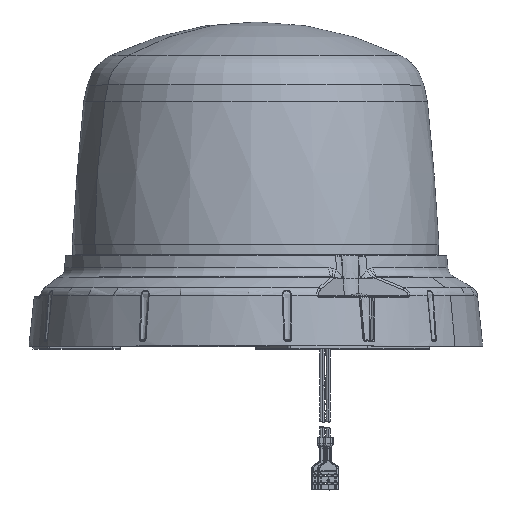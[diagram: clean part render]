
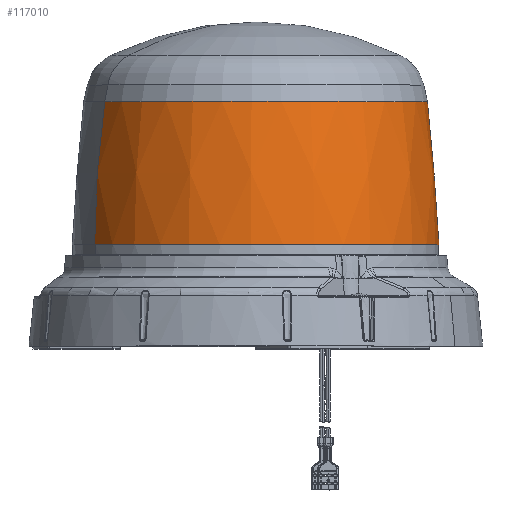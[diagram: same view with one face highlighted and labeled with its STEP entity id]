
A CAD part, top view. The second image highlights one B-rep face of the part: STEP entity #117010.
In plain terms, the highlighted face is a revolution surface.
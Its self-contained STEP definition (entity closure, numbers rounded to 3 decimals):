
#116940=AXIS2_PLACEMENT_3D('Circle Axis2P3D',#116938,#116939,$) ;
#116969=AXIS2_PLACEMENT_3D('Circle Axis2P3D',#116967,#116968,$) ;
#116918=CARTESIAN_POINT('Vertex',(54.879,39.,-29.98)) ;
#116935=CARTESIAN_POINT('Vertex',(-54.879,39.,29.98)) ;
#116938=CARTESIAN_POINT('Axis2P3D Location',(0.,39.,0.)) ;
#116951=CARTESIAN_POINT('Control Point',(62.534,39.,0.)) ;
#116952=CARTESIAN_POINT('Control Point',(63.103,35.918,0.)) ;
#116953=CARTESIAN_POINT('Control Point',(63.599,32.823,0.)) ;
#116954=CARTESIAN_POINT('Control Point',(64.031,29.734,0.)) ;
#116955=CARTESIAN_POINT('Control Point',(64.92,22.467,0.)) ;
#116956=CARTESIAN_POINT('Control Point',(65.551,15.169,0.)) ;
#116957=CARTESIAN_POINT('Control Point',(65.841,11.036,0.)) ;
#116958=CARTESIAN_POINT('Control Point',(66.255,3.724,0.)) ;
#116959=CARTESIAN_POINT('Control Point',(66.524,-3.595,0.)) ;
#116960=CARTESIAN_POINT('Control Point',(66.615,-6.73,0.)) ;
#116961=CARTESIAN_POINT('Control Point',(66.686,-9.865,0.)) ;
#116962=CARTESIAN_POINT('Control Point',(66.74,-13.,0.)) ;
#116963=CARTESIAN_POINT('Axis1P Location',(0.,53.131,0.)) ;
#116967=CARTESIAN_POINT('Axis2P3D Location',(0.,-13.,0.)) ;
#116971=CARTESIAN_POINT('Vertex',(-58.57,-13.,31.997)) ;
#116973=CARTESIAN_POINT('Vertex',(58.57,-13.,-31.997)) ;
#116977=CARTESIAN_POINT('Control Point',(54.879,39.,-29.98)) ;
#116978=CARTESIAN_POINT('Control Point',(55.378,35.918,-30.253)) ;
#116979=CARTESIAN_POINT('Control Point',(55.813,32.823,-30.491)) ;
#116980=CARTESIAN_POINT('Control Point',(56.192,29.734,-30.698)) ;
#116981=CARTESIAN_POINT('Control Point',(56.973,22.467,-31.124)) ;
#116982=CARTESIAN_POINT('Control Point',(57.526,15.169,-31.427)) ;
#116983=CARTESIAN_POINT('Control Point',(57.781,11.036,-31.566)) ;
#116984=CARTESIAN_POINT('Control Point',(58.144,3.724,-31.764)) ;
#116985=CARTESIAN_POINT('Control Point',(58.38,-3.595,-31.893)) ;
#116986=CARTESIAN_POINT('Control Point',(58.46,-6.73,-31.937)) ;
#116987=CARTESIAN_POINT('Control Point',(58.523,-9.865,-31.971)) ;
#116988=CARTESIAN_POINT('Control Point',(58.57,-13.,-31.997)) ;
#116991=CARTESIAN_POINT('Control Point',(-54.879,39.,29.98)) ;
#116992=CARTESIAN_POINT('Control Point',(-55.378,35.918,30.253)) ;
#116993=CARTESIAN_POINT('Control Point',(-55.813,32.823,30.491)) ;
#116994=CARTESIAN_POINT('Control Point',(-56.192,29.734,30.698)) ;
#116995=CARTESIAN_POINT('Control Point',(-56.973,22.467,31.124)) ;
#116996=CARTESIAN_POINT('Control Point',(-57.526,15.169,31.427)) ;
#116997=CARTESIAN_POINT('Control Point',(-57.781,11.036,31.566)) ;
#116998=CARTESIAN_POINT('Control Point',(-58.144,3.724,31.764)) ;
#116999=CARTESIAN_POINT('Control Point',(-58.38,-3.595,31.893)) ;
#117000=CARTESIAN_POINT('Control Point',(-58.46,-6.73,31.937)) ;
#117001=CARTESIAN_POINT('Control Point',(-58.523,-9.865,31.971)) ;
#117002=CARTESIAN_POINT('Control Point',(-58.57,-13.,31.997)) ;
#116939=DIRECTION('Axis2P3D Direction',(-0.,1.,0.)) ;
#116964=DIRECTION('Axis1P Direction',(-0.,1.,0.)) ;
#116968=DIRECTION('Axis2P3D Direction',(-0.,1.,0.)) ;
#116965=AXIS1_PLACEMENT('Revolution Surface Axis1P',#116963,#116964) ;
#117005=ORIENTED_EDGE('',*,*,#116975,.T.) ;
#117006=ORIENTED_EDGE('',*,*,#116989,.T.) ;
#117007=ORIENTED_EDGE('',*,*,#116942,.F.) ;
#117008=ORIENTED_EDGE('',*,*,#117003,.F.) ;
#117010=ADVANCED_FACE('Body',(#117009),#116966,.F.) ;
#116950=B_SPLINE_CURVE_WITH_KNOTS('',5,(#116951,#116952,#116953,#116954,#116955,#116956,#116957,#116958,#116959,#116960,#116961,#116962),.UNSPECIFIED.,.F.,.U.,(6,3,3,6),(0.,22.154,51.737,73.882),.UNSPECIFIED.) ;
#116976=B_SPLINE_CURVE_WITH_KNOTS('',5,(#116977,#116978,#116979,#116980,#116981,#116982,#116983,#116984,#116985,#116986,#116987,#116988),.UNSPECIFIED.,.F.,.U.,(6,3,3,6),(0.,22.154,51.737,73.882),.UNSPECIFIED.) ;
#116990=B_SPLINE_CURVE_WITH_KNOTS('',5,(#116991,#116992,#116993,#116994,#116995,#116996,#116997,#116998,#116999,#117000,#117001,#117002),.UNSPECIFIED.,.F.,.U.,(6,3,3,6),(0.,22.154,51.737,73.882),.UNSPECIFIED.) ;
#116941=CIRCLE('generated circle',#116940,62.534) ;
#116970=CIRCLE('generated circle',#116969,66.74) ;
#116942=EDGE_CURVE('',#116936,#116919,#116941,.T.) ;
#116975=EDGE_CURVE('',#116972,#116974,#116970,.T.) ;
#116989=EDGE_CURVE('',#116974,#116919,#116976,.F.) ;
#117003=EDGE_CURVE('',#116972,#116936,#116990,.F.) ;
#117004=EDGE_LOOP('',(#117005,#117006,#117007,#117008)) ;
#117009=FACE_OUTER_BOUND('',#117004,.T.) ;
#116966=SURFACE_OF_REVOLUTION('Surface of Revolution',#116950,#116965) ;
#116919=VERTEX_POINT('',#116918) ;
#116936=VERTEX_POINT('',#116935) ;
#116972=VERTEX_POINT('',#116971) ;
#116974=VERTEX_POINT('',#116973) ;
